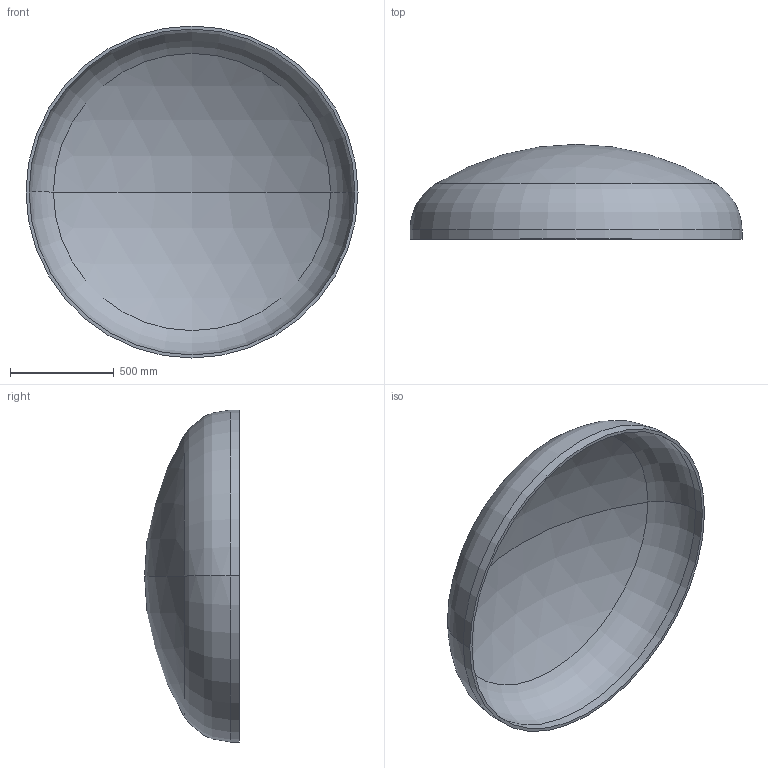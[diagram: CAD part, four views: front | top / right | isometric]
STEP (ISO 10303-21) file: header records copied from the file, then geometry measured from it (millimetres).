
FILE_DESCRIPTION (( 'STEP AP203' ), '1' );
FILE_NAME ('DIN 28013 Korbbogenform_-_Boden DIN 28013 - 1600 x 45 - I - s=15.step', '2016-07-01T11:06:28', ( '' ), ( '' ), 'SwSTEP 2.0', 'SolidWorks 2013', '' );
FILE_SCHEMA (( 'CONFIG_CONTROL_DESIGN' ));
Length unit declared in the file: millimetre
Products named in the file (1): DIN 28013 Korbbogenform_-_Boden DIN 28013 - 1600 x 45 - I - s=15
Bounding box: 1600 x 457.04 x 1600 mm (x, y, z)
Volume: 44570740.3 mm3; surface area: 6017925.8 mm2
Topology: 1 solids, 1 shells, 13 faces, 24 edges, 14 vertices
Faces by surface type: torus 4, cylinder 4, sphere 4, plane 1
Entity records: 407 total; most frequent: DIRECTION 72, CARTESIAN_POINT 52, ORIENTED_EDGE 48, AXIS2_PLACEMENT_3D 34, EDGE_CURVE 24, CIRCLE 20, EDGE_LOOP 14, VERTEX_POINT 14
